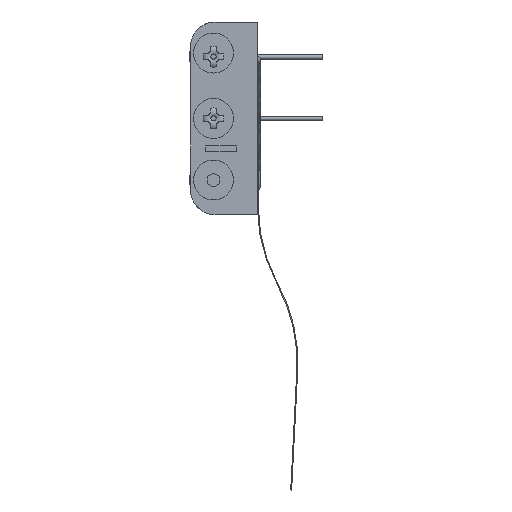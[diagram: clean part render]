
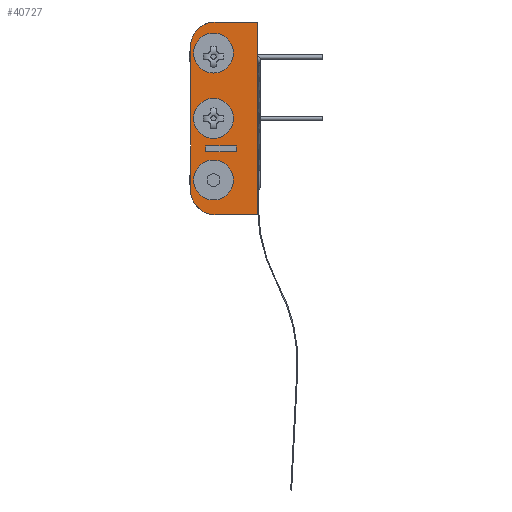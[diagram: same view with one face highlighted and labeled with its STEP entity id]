
A CAD part, left-side view. The second image highlights one B-rep face of the part: STEP entity #40727.
In plain terms, the highlighted planar face has unit normal (-1, 0, 0).
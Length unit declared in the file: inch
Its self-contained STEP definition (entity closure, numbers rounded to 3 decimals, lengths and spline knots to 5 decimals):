
#730 = DIRECTION ( 'NONE',  ( 0., 0., 1. ) ) ;
#859 = VERTEX_POINT ( 'NONE', #8366 ) ;
#1891 = CARTESIAN_POINT ( 'NONE',  ( -0.70483, 0.10071, 0.48131 ) ) ;
#2574 = CIRCLE ( 'NONE', #35487, 0.1875 ) ;
#2980 = EDGE_CURVE ( 'NONE', #3729, #3729, #14623, .T. ) ;
#3272 = CARTESIAN_POINT ( 'NONE',  ( -0.70483, 0.10071, -0.62007 ) ) ;
#3729 = VERTEX_POINT ( 'NONE', #16101 ) ;
#3931 = ORIENTED_EDGE ( 'NONE', *, *, #19461, .F. ) ;
#4616 = ORIENTED_EDGE ( 'NONE', *, *, #55462, .F. ) ;
#5187 = DIRECTION ( 'NONE',  ( 0., 0., -1. ) ) ;
#5399 = CARTESIAN_POINT ( 'NONE',  ( -0.70483, -0.4111, 0.66881 ) ) ;
#6199 = VECTOR ( 'NONE', #22102, 39.37008 ) ;
#7142 = LINE ( 'NONE', #49505, #19245 ) ;
#7958 = VECTOR ( 'NONE', #5187, 39.37008 ) ;
#7992 = EDGE_CURVE ( 'NONE', #9002, #47843, #2574, .T. ) ;
#8148 = CARTESIAN_POINT ( 'NONE',  ( -0.70483, -0.4111, 0.66881 ) ) ;
#8366 = CARTESIAN_POINT ( 'NONE',  ( -0.70483, -0.4111, 0.66881 ) ) ;
#8372 = EDGE_CURVE ( 'NONE', #35722, #35722, #24521, .T. ) ;
#9002 = VERTEX_POINT ( 'NONE', #1891 ) ;
#9875 = EDGE_LOOP ( 'NONE', ( #37993 ) ) ;
#9915 = EDGE_LOOP ( 'NONE', ( #51083, #37749, #39480, #4616, #36217, #49733 ) ) ;
#10166 = FACE_BOUND ( 'NONE', #18125, .T. ) ;
#10687 = DIRECTION ( 'NONE',  ( -1., 0., 0. ) ) ;
#11082 = ORIENTED_EDGE ( 'NONE', *, *, #25888, .F. ) ;
#12981 = DIRECTION ( 'NONE',  ( 0., 0., 1. ) ) ;
#13900 = CARTESIAN_POINT ( 'NONE',  ( -0.70483, -0.4111, -0.80757 ) ) ;
#14221 = ORIENTED_EDGE ( 'NONE', *, *, #58326, .F. ) ;
#14607 = VERTEX_POINT ( 'NONE', #36871 ) ;
#14623 = CIRCLE ( 'NONE', #51968, 0.153 ) ;
#14976 = CARTESIAN_POINT ( 'NONE',  ( -0.70483, -0.01504, -0.32518 ) ) ;
#15227 = DIRECTION ( 'NONE',  ( 0., 0., 1. ) ) ;
#15354 = DIRECTION ( 'NONE',  ( -1., 0., 0. ) ) ;
#15429 = CARTESIAN_POINT ( 'NONE',  ( -0.70483, -0.0751, -0.06938 ) ) ;
#16101 = CARTESIAN_POINT ( 'NONE',  ( -0.70483, -0.0751, 0.08362 ) ) ;
#16211 = VERTEX_POINT ( 'NONE', #56290 ) ;
#16480 = CARTESIAN_POINT ( 'NONE',  ( -0.70483, -0.08679, 0.48131 ) ) ;
#16865 = LINE ( 'NONE', #35841, #6199 ) ;
#18125 = EDGE_LOOP ( 'NONE', ( #14221 ) ) ;
#18732 = DIRECTION ( 'NONE',  ( 0., 1., 0. ) ) ;
#19245 = VECTOR ( 'NONE', #50070, 39.37008 ) ;
#19376 = CARTESIAN_POINT ( 'NONE',  ( -0.70483, -0.08679, -0.62007 ) ) ;
#19461 = EDGE_CURVE ( 'NONE', #14607, #21318, #7142, .T. ) ;
#21032 = DIRECTION ( 'NONE',  ( 0., 0., 1. ) ) ;
#21318 = VERTEX_POINT ( 'NONE', #29421 ) ;
#22102 = DIRECTION ( 'NONE',  ( 0., 0., 1. ) ) ;
#23306 = VERTEX_POINT ( 'NONE', #49558 ) ;
#23943 = DIRECTION ( 'NONE',  ( 0., 0., -1. ) ) ;
#24075 = AXIS2_PLACEMENT_3D ( 'NONE', #37914, #10687, #42497 ) ;
#24521 = CIRCLE ( 'NONE', #24075, 0.153 ) ;
#24838 = DIRECTION ( 'NONE',  ( 1., 0., 0. ) ) ;
#24974 = AXIS2_PLACEMENT_3D ( 'NONE', #19376, #51231, #23943 ) ;
#25298 = CIRCLE ( 'NONE', #26980, 0.153 ) ;
#25888 = EDGE_CURVE ( 'NONE', #40221, #40114, #16865, .T. ) ;
#26666 = DIRECTION ( 'NONE',  ( 0., -1., 0. ) ) ;
#26980 = AXIS2_PLACEMENT_3D ( 'NONE', #55183, #27915, #730 ) ;
#27210 = CARTESIAN_POINT ( 'NONE',  ( -0.70483, -0.4111, -0.80757 ) ) ;
#27915 = DIRECTION ( 'NONE',  ( -1., 0., 0. ) ) ;
#28068 = EDGE_CURVE ( 'NONE', #48333, #23306, #29924, .T. ) ;
#29324 = VECTOR ( 'NONE', #12981, 39.37008 ) ;
#29421 = CARTESIAN_POINT ( 'NONE',  ( -0.70483, -0.01504, -0.32518 ) ) ;
#29924 = LINE ( 'NONE', #27210, #52752 ) ;
#31471 = CIRCLE ( 'NONE', #37511, 0.1875 ) ;
#32668 = PLANE ( 'NONE',  #24974 ) ;
#32864 = FACE_OUTER_BOUND ( 'NONE', #9915, .T. ) ;
#33494 = EDGE_CURVE ( 'NONE', #23306, #16211, #31471, .T. ) ;
#33736 = VERTEX_POINT ( 'NONE', #40123 ) ;
#34172 = VECTOR ( 'NONE', #46788, 39.37008 ) ;
#35487 = AXIS2_PLACEMENT_3D ( 'NONE', #16480, #48315, #21032 ) ;
#35722 = VERTEX_POINT ( 'NONE', #43505 ) ;
#35841 = CARTESIAN_POINT ( 'NONE',  ( -0.70483, -0.25126, -0.28108 ) ) ;
#36217 = ORIENTED_EDGE ( 'NONE', *, *, #7992, .F. ) ;
#36274 = VECTOR ( 'NONE', #26666, 39.37008 ) ;
#36871 = CARTESIAN_POINT ( 'NONE',  ( -0.70483, -0.01504, -0.28108 ) ) ;
#37511 = AXIS2_PLACEMENT_3D ( 'NONE', #52111, #24838, #56662 ) ;
#37749 = ORIENTED_EDGE ( 'NONE', *, *, #28068, .F. ) ;
#37914 = CARTESIAN_POINT ( 'NONE',  ( -0.70483, -0.0751, 0.43095 ) ) ;
#37993 = ORIENTED_EDGE ( 'NONE', *, *, #2980, .F. ) ;
#38341 = EDGE_CURVE ( 'NONE', #16211, #9002, #52137, .T. ) ;
#38577 = LINE ( 'NONE', #46169, #56389 ) ;
#39480 = ORIENTED_EDGE ( 'NONE', *, *, #49744, .F. ) ;
#40114 = VERTEX_POINT ( 'NONE', #55116 ) ;
#40123 = CARTESIAN_POINT ( 'NONE',  ( -0.70483, -0.0751, -0.38882 ) ) ;
#40221 = VERTEX_POINT ( 'NONE', #51178 ) ;
#40727 = ADVANCED_FACE ( 'NONE', ( #10166, #57122, #58592, #45008, #32864 ), #32668, .F. ) ;
#41143 = EDGE_CURVE ( 'NONE', #40114, #14607, #38577, .T. ) ;
#42497 = DIRECTION ( 'NONE',  ( 0., 0., 1. ) ) ;
#42826 = LINE ( 'NONE', #5399, #7958 ) ;
#43487 = ORIENTED_EDGE ( 'NONE', *, *, #41143, .F. ) ;
#43505 = CARTESIAN_POINT ( 'NONE',  ( -0.70483, -0.0751, 0.58395 ) ) ;
#45008 = FACE_BOUND ( 'NONE', #47154, .T. ) ;
#45502 = DIRECTION ( 'NONE',  ( 0., 1., 0. ) ) ;
#46169 = CARTESIAN_POINT ( 'NONE',  ( -0.70483, -0.01504, -0.28108 ) ) ;
#46788 = DIRECTION ( 'NONE',  ( 0., -1., 0. ) ) ;
#47154 = EDGE_LOOP ( 'NONE', ( #11082, #57782, #3931, #43487 ) ) ;
#47843 = VERTEX_POINT ( 'NONE', #56000 ) ;
#48315 = DIRECTION ( 'NONE',  ( 1., 0., 0. ) ) ;
#48333 = VERTEX_POINT ( 'NONE', #13900 ) ;
#48761 = ORIENTED_EDGE ( 'NONE', *, *, #8372, .F. ) ;
#49505 = CARTESIAN_POINT ( 'NONE',  ( -0.70483, -0.01504, -0.32518 ) ) ;
#49558 = CARTESIAN_POINT ( 'NONE',  ( -0.70483, -0.08679, -0.80757 ) ) ;
#49733 = ORIENTED_EDGE ( 'NONE', *, *, #38341, .F. ) ;
#49744 = EDGE_CURVE ( 'NONE', #859, #48333, #42826, .T. ) ;
#50070 = DIRECTION ( 'NONE',  ( 0., 0., -1. ) ) ;
#51083 = ORIENTED_EDGE ( 'NONE', *, *, #33494, .F. ) ;
#51178 = CARTESIAN_POINT ( 'NONE',  ( -0.70483, -0.25126, -0.32518 ) ) ;
#51231 = DIRECTION ( 'NONE',  ( 1., 0., 0. ) ) ;
#51968 = AXIS2_PLACEMENT_3D ( 'NONE', #15429, #15354, #15227 ) ;
#52111 = CARTESIAN_POINT ( 'NONE',  ( -0.70483, -0.08679, -0.62007 ) ) ;
#52137 = LINE ( 'NONE', #3272, #29324 ) ;
#52473 = EDGE_CURVE ( 'NONE', #21318, #40221, #58440, .T. ) ;
#52752 = VECTOR ( 'NONE', #45502, 39.37008 ) ;
#54108 = LINE ( 'NONE', #8148, #36274 ) ;
#55116 = CARTESIAN_POINT ( 'NONE',  ( -0.70483, -0.25126, -0.28108 ) ) ;
#55183 = CARTESIAN_POINT ( 'NONE',  ( -0.70483, -0.0751, -0.54182 ) ) ;
#55462 = EDGE_CURVE ( 'NONE', #47843, #859, #54108, .T. ) ;
#56000 = CARTESIAN_POINT ( 'NONE',  ( -0.70483, -0.08679, 0.66881 ) ) ;
#56251 = EDGE_LOOP ( 'NONE', ( #48761 ) ) ;
#56290 = CARTESIAN_POINT ( 'NONE',  ( -0.70483, 0.10071, -0.62007 ) ) ;
#56389 = VECTOR ( 'NONE', #18732, 39.37008 ) ;
#56662 = DIRECTION ( 'NONE',  ( 0., 0., -1. ) ) ;
#57122 = FACE_BOUND ( 'NONE', #9875, .T. ) ;
#57782 = ORIENTED_EDGE ( 'NONE', *, *, #52473, .F. ) ;
#58326 = EDGE_CURVE ( 'NONE', #33736, #33736, #25298, .T. ) ;
#58440 = LINE ( 'NONE', #14976, #34172 ) ;
#58592 = FACE_BOUND ( 'NONE', #56251, .T. ) ;
